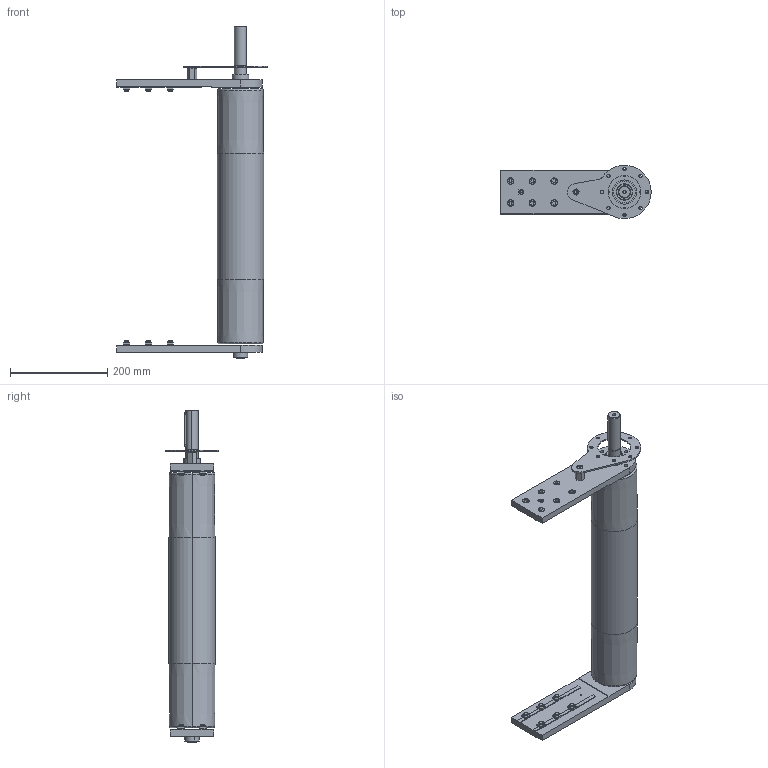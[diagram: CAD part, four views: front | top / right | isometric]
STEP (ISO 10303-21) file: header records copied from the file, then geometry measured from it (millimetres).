
FILE_DESCRIPTION (( 'STEP AP203' ), '1' );
FILE_NAME ('084.095.KD.49.500.STEP', '2015-11-12T10:00:59', ( '' ), ( '' ), 'SwSTEP 2.0', 'SolidWorks 2012', '' );
FILE_SCHEMA (( 'CONFIG_CONTROL_DESIGN' ));
Length unit declared in the file: millimetre
Products named in the file (1): 084.095.KD.49.500
Bounding box: 310 x 110 x 684.5 mm (x, y, z)
Surface area: 358226.6 mm2 (no closed solid volume)
Topology: 0 solids, 53 shells, 540 faces, 1651 edges, 1150 vertices
Faces by surface type: plane 300, cylinder 143, torus 52, cone 36, bspline 7, sphere 2
Entity records: 19520 total; most frequent: CARTESIAN_POINT 4669, DIRECTION 3147, ORIENTED_EDGE 2766, EDGE_CURVE 1647, AXIS2_PLACEMENT_3D 1156, VERTEX_POINT 1148, VECTOR 835, LINE 835
